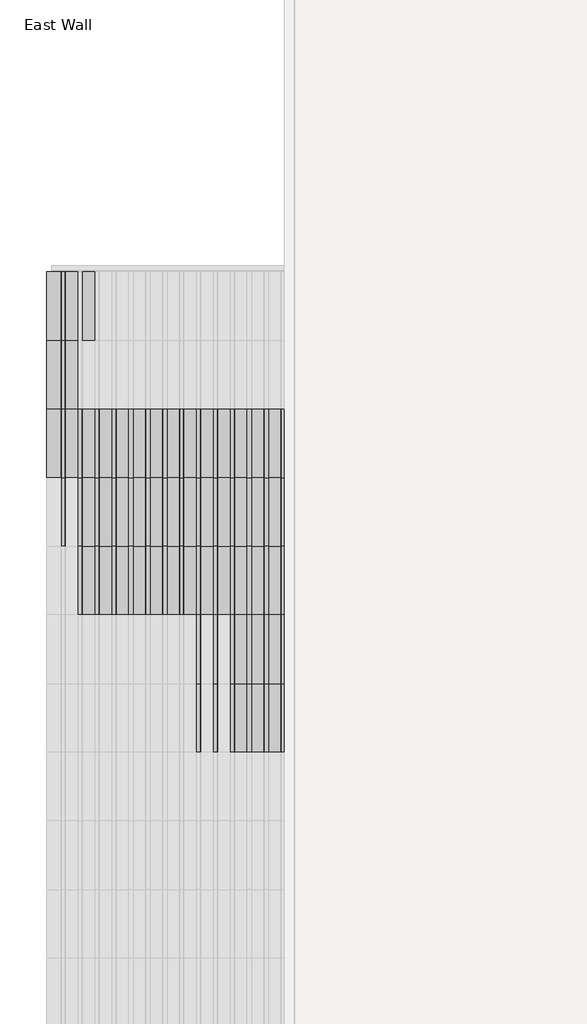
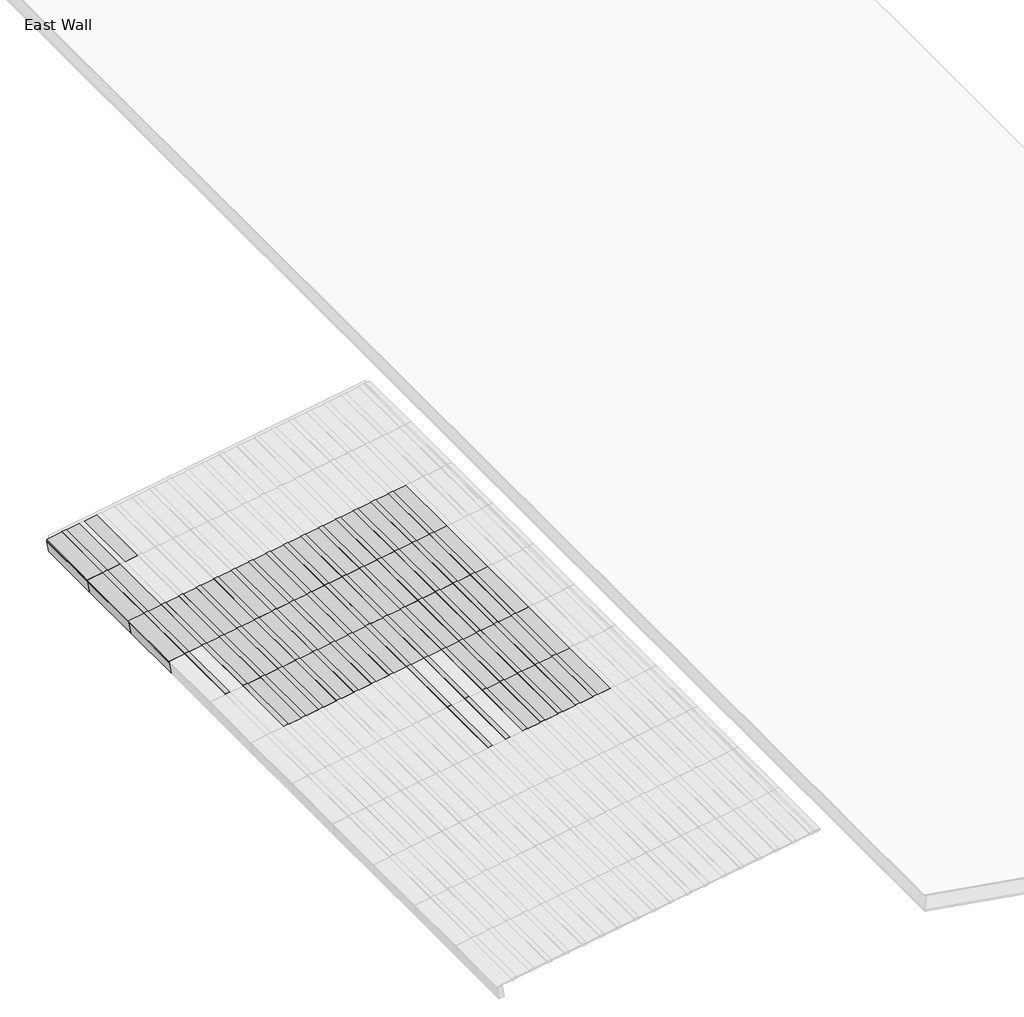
# One storey, part 4 of 5: 63 members, 59 plates.
"""IFC4 building model written with IfcOpenShell, lengths in millimetres."""

from ifc_helpers import new_model, si_unit, origin, place, context, project, spatial, transform, mapped, element, save
from components import rectangular_mullion_fascia_9a07afea, rectangular_mullion_fascia_589b878f, rectangular_mullion_wood_slats_095afc73, rectangular_mullion_wood_slats_83d5eb21, system_panel_empty_9ec88690, system_panel_empty_25c6223c

model = new_model("IFC4")

# Units and contexts
model_context = context("Model", 3, world=origin())
ifc_project = project(units=[si_unit("LENGTHUNIT", "METRE", prefix="MILLI")], contexts=[model_context])

# Site, building, storey
site = spatial("IfcSite", under=ifc_project)
building = spatial("IfcBuilding", under=site)
storey = spatial("IfcBuildingStorey", under=building, Name="East Wall", Elevation=3657.6)

# Members
placement = place(None, origin())
rectangular_mullion_fascia_shape = rectangular_mullion_fascia_9a07afea(model_context)
element("IfcMember", 1, ObjectType="Rectangular Mullion : Fascia", at=placement, inside=storey, context=model_context, shape_type="MappedRepresentation", body=[
    mapped(rectangular_mullion_fascia_shape, transform((9705.6989802, 10773.4499281, 3044.5915776), x_axis=(-0.9863939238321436, 0.0, -0.16439898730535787), y_axis=(0.16439898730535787, 0.0, -0.9863939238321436), z_axis=(0.0, -1.0, 0.0))),
])
element("IfcMember", 2, ObjectType="Rectangular Mullion : Fascia", at=placement, inside=storey, context=model_context, shape_type="MappedRepresentation", body=[
    mapped(rectangular_mullion_fascia_shape, transform((9705.6989802, 10163.8499281, 3044.5915776), x_axis=(-0.9863939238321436, 0.0, -0.16439898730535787), y_axis=(0.16439898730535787, 0.0, -0.9863939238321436), z_axis=(0.0, -1.0, 0.0))),
])
rectangular_mullion_fascia_2_shape = rectangular_mullion_fascia_589b878f(model_context)
element("IfcMember", 3, ObjectType="Rectangular Mullion : Fascia", at=placement, inside=storey, context=model_context, shape_type="MappedRepresentation", body=[
    mapped(rectangular_mullion_fascia_2_shape, transform((9705.6989802, 11383.0499281, 3044.5915776), x_axis=(-0.9863939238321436, 0.0, -0.16439898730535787), y_axis=(0.16439898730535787, 0.0, -0.9863939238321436), z_axis=(0.0, -1.0, 0.0))),
])
rectangular_mullion_wood_slats_shape = rectangular_mullion_wood_slats_095afc73(model_context)
element("IfcMember", 4, ObjectType="Rectangular Mullion : Wood Slats", at=placement, inside=storey, context=model_context, shape_type="MappedRepresentation", body=[
    mapped(rectangular_mullion_wood_slats_shape, transform((9856.0254142, 11383.0499281, 3069.6459833), x_axis=(0.9863939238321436, 0.0, 0.16439898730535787), y_axis=(0.16439898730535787, 0.0, -0.9863939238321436), z_axis=(0.0, 1.0, 0.0))),
])
element("IfcMember", 5, ObjectType="Rectangular Mullion : Wood Slats", at=placement, inside=storey, context=model_context, shape_type="MappedRepresentation", body=[
    mapped(rectangular_mullion_wood_slats_shape, transform((9856.0254142, 10773.4499281, 3069.6459833), x_axis=(0.9863939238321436, 0.0, 0.16439898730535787), y_axis=(0.16439898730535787, 0.0, -0.9863939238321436), z_axis=(0.0, 1.0, 0.0))),
])
element("IfcMember", 6, ObjectType="Rectangular Mullion : Wood Slats", at=placement, inside=storey, context=model_context, shape_type="MappedRepresentation", body=[
    mapped(rectangular_mullion_wood_slats_shape, transform((9856.0254142, 10163.8499281, 3069.6459833), x_axis=(0.9863939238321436, 0.0, 0.16439898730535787), y_axis=(0.16439898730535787, 0.0, -0.9863939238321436), z_axis=(0.0, 1.0, 0.0))),
])
element("IfcMember", 7, ObjectType="Rectangular Mullion : Wood Slats", at=placement, inside=storey, context=model_context, shape_type="MappedRepresentation", body=[
    mapped(rectangular_mullion_wood_slats_shape, transform((10006.3518482, 10773.4499281, 3094.700389), x_axis=(0.9863939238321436, 0.0, 0.16439898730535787), y_axis=(0.16439898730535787, 0.0, -0.9863939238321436), z_axis=(0.0, 1.0, 0.0))),
])
element("IfcMember", 8, ObjectType="Rectangular Mullion : Wood Slats", at=placement, inside=storey, context=model_context, shape_type="MappedRepresentation", body=[
    mapped(rectangular_mullion_wood_slats_shape, transform((10006.3518482, 10163.8499281, 3094.700389), x_axis=(0.9863939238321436, 0.0, 0.16439898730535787), y_axis=(0.16439898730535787, 0.0, -0.9863939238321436), z_axis=(0.0, 1.0, 0.0))),
])
element("IfcMember", 9, ObjectType="Rectangular Mullion : Wood Slats", at=placement, inside=storey, context=model_context, shape_type="MappedRepresentation", body=[
    mapped(rectangular_mullion_wood_slats_shape, transform((10006.3518482, 9554.2499281, 3094.700389), x_axis=(0.9863939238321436, 0.0, 0.16439898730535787), y_axis=(0.16439898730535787, 0.0, -0.9863939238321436), z_axis=(0.0, 1.0, 0.0))),
])
element("IfcMember", 10, ObjectType="Rectangular Mullion : Wood Slats", at=placement, inside=storey, context=model_context, shape_type="MappedRepresentation", body=[
    mapped(rectangular_mullion_wood_slats_shape, transform((10156.6782822, 10773.4499281, 3119.7547946), x_axis=(0.9863939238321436, 0.0, 0.16439898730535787), y_axis=(0.16439898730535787, 0.0, -0.9863939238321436), z_axis=(0.0, 1.0, 0.0))),
])
element("IfcMember", 11, ObjectType="Rectangular Mullion : Wood Slats", at=placement, inside=storey, context=model_context, shape_type="MappedRepresentation", body=[
    mapped(rectangular_mullion_wood_slats_shape, transform((10156.6782822, 10163.8499281, 3119.7547946), x_axis=(0.9863939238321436, 0.0, 0.16439898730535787), y_axis=(0.16439898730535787, 0.0, -0.9863939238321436), z_axis=(0.0, 1.0, 0.0))),
])
element("IfcMember", 12, ObjectType="Rectangular Mullion : Wood Slats", at=placement, inside=storey, context=model_context, shape_type="MappedRepresentation", body=[
    mapped(rectangular_mullion_wood_slats_shape, transform((10156.6782822, 9554.2499281, 3119.7547946), x_axis=(0.9863939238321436, 0.0, 0.16439898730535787), y_axis=(0.16439898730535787, 0.0, -0.9863939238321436), z_axis=(0.0, 1.0, 0.0))),
])
element("IfcMember", 13, ObjectType="Rectangular Mullion : Wood Slats", at=placement, inside=storey, context=model_context, shape_type="MappedRepresentation", body=[
    mapped(rectangular_mullion_wood_slats_shape, transform((10307.0047162, 10773.4499281, 3144.8092003), x_axis=(0.9863939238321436, 0.0, 0.16439898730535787), y_axis=(0.16439898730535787, 0.0, -0.9863939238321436), z_axis=(0.0, 1.0, 0.0))),
])
element("IfcMember", 14, ObjectType="Rectangular Mullion : Wood Slats", at=placement, inside=storey, context=model_context, shape_type="MappedRepresentation", body=[
    mapped(rectangular_mullion_wood_slats_shape, transform((10307.0047162, 10163.8499281, 3144.8092003), x_axis=(0.9863939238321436, 0.0, 0.16439898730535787), y_axis=(0.16439898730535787, 0.0, -0.9863939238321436), z_axis=(0.0, 1.0, 0.0))),
])
element("IfcMember", 15, ObjectType="Rectangular Mullion : Wood Slats", at=placement, inside=storey, context=model_context, shape_type="MappedRepresentation", body=[
    mapped(rectangular_mullion_wood_slats_shape, transform((10307.0047162, 9554.2499281, 3144.8092003), x_axis=(0.9863939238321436, 0.0, 0.16439898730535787), y_axis=(0.16439898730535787, 0.0, -0.9863939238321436), z_axis=(0.0, 1.0, 0.0))),
])
element("IfcMember", 16, ObjectType="Rectangular Mullion : Wood Slats", at=placement, inside=storey, context=model_context, shape_type="MappedRepresentation", body=[
    mapped(rectangular_mullion_wood_slats_shape, transform((10457.3311502, 10773.4499281, 3169.863606), x_axis=(0.9863939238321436, 0.0, 0.16439898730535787), y_axis=(0.16439898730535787, 0.0, -0.9863939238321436), z_axis=(0.0, 1.0, 0.0))),
])
element("IfcMember", 17, ObjectType="Rectangular Mullion : Wood Slats", at=placement, inside=storey, context=model_context, shape_type="MappedRepresentation", body=[
    mapped(rectangular_mullion_wood_slats_shape, transform((10457.3311502, 10163.8499281, 3169.863606), x_axis=(0.9863939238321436, 0.0, 0.16439898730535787), y_axis=(0.16439898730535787, 0.0, -0.9863939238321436), z_axis=(0.0, 1.0, 0.0))),
])
element("IfcMember", 18, ObjectType="Rectangular Mullion : Wood Slats", at=placement, inside=storey, context=model_context, shape_type="MappedRepresentation", body=[
    mapped(rectangular_mullion_wood_slats_shape, transform((10457.3311502, 9554.2499281, 3169.863606), x_axis=(0.9863939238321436, 0.0, 0.16439898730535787), y_axis=(0.16439898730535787, 0.0, -0.9863939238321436), z_axis=(0.0, 1.0, 0.0))),
])
element("IfcMember", 19, ObjectType="Rectangular Mullion : Wood Slats", at=placement, inside=storey, context=model_context, shape_type="MappedRepresentation", body=[
    mapped(rectangular_mullion_wood_slats_shape, transform((10607.6575842, 10773.4499281, 3194.9180116), x_axis=(0.9863939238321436, 0.0, 0.16439898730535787), y_axis=(0.16439898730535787, 0.0, -0.9863939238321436), z_axis=(0.0, 1.0, 0.0))),
])
element("IfcMember", 20, ObjectType="Rectangular Mullion : Wood Slats", at=placement, inside=storey, context=model_context, shape_type="MappedRepresentation", body=[
    mapped(rectangular_mullion_wood_slats_shape, transform((10607.6575842, 10163.8499281, 3194.9180116), x_axis=(0.9863939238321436, 0.0, 0.16439898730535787), y_axis=(0.16439898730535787, 0.0, -0.9863939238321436), z_axis=(0.0, 1.0, 0.0))),
])
element("IfcMember", 21, ObjectType="Rectangular Mullion : Wood Slats", at=placement, inside=storey, context=model_context, shape_type="MappedRepresentation", body=[
    mapped(rectangular_mullion_wood_slats_shape, transform((10607.6575842, 9554.2499281, 3194.9180116), x_axis=(0.9863939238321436, 0.0, 0.16439898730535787), y_axis=(0.16439898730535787, 0.0, -0.9863939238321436), z_axis=(0.0, 1.0, 0.0))),
])
element("IfcMember", 22, ObjectType="Rectangular Mullion : Wood Slats", at=placement, inside=storey, context=model_context, shape_type="MappedRepresentation", body=[
    mapped(rectangular_mullion_wood_slats_shape, transform((10757.9840182, 10773.4499281, 3219.9724173), x_axis=(0.9863939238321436, 0.0, 0.16439898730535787), y_axis=(0.16439898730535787, 0.0, -0.9863939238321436), z_axis=(0.0, 1.0, 0.0))),
])
element("IfcMember", 23, ObjectType="Rectangular Mullion : Wood Slats", at=placement, inside=storey, context=model_context, shape_type="MappedRepresentation", body=[
    mapped(rectangular_mullion_wood_slats_shape, transform((10757.9840182, 10163.8499281, 3219.9724173), x_axis=(0.9863939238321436, 0.0, 0.16439898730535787), y_axis=(0.16439898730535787, 0.0, -0.9863939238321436), z_axis=(0.0, 1.0, 0.0))),
])
element("IfcMember", 24, ObjectType="Rectangular Mullion : Wood Slats", at=placement, inside=storey, context=model_context, shape_type="MappedRepresentation", body=[
    mapped(rectangular_mullion_wood_slats_shape, transform((10757.9840182, 9554.2499281, 3219.9724173), x_axis=(0.9863939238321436, 0.0, 0.16439898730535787), y_axis=(0.16439898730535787, 0.0, -0.9863939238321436), z_axis=(0.0, 1.0, 0.0))),
])
element("IfcMember", 25, ObjectType="Rectangular Mullion : Wood Slats", at=placement, inside=storey, context=model_context, shape_type="MappedRepresentation", body=[
    mapped(rectangular_mullion_wood_slats_shape, transform((10908.3104522, 10773.4499281, 3245.026823), x_axis=(0.9863939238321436, 0.0, 0.16439898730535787), y_axis=(0.16439898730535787, 0.0, -0.9863939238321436), z_axis=(0.0, 1.0, 0.0))),
])
element("IfcMember", 26, ObjectType="Rectangular Mullion : Wood Slats", at=placement, inside=storey, context=model_context, shape_type="MappedRepresentation", body=[
    mapped(rectangular_mullion_wood_slats_shape, transform((10908.3104522, 10163.8499281, 3245.026823), x_axis=(0.9863939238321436, 0.0, 0.16439898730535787), y_axis=(0.16439898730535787, 0.0, -0.9863939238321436), z_axis=(0.0, 1.0, 0.0))),
])
element("IfcMember", 27, ObjectType="Rectangular Mullion : Wood Slats", at=placement, inside=storey, context=model_context, shape_type="MappedRepresentation", body=[
    mapped(rectangular_mullion_wood_slats_shape, transform((10908.3104522, 9554.2499281, 3245.026823), x_axis=(0.9863939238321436, 0.0, 0.16439898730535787), y_axis=(0.16439898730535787, 0.0, -0.9863939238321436), z_axis=(0.0, 1.0, 0.0))),
])
element("IfcMember", 28, ObjectType="Rectangular Mullion : Wood Slats", at=placement, inside=storey, context=model_context, shape_type="MappedRepresentation", body=[
    mapped(rectangular_mullion_wood_slats_shape, transform((11058.6368862, 10773.4499281, 3270.0812286), x_axis=(0.9863939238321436, 0.0, 0.16439898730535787), y_axis=(0.16439898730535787, 0.0, -0.9863939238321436), z_axis=(0.0, 1.0, 0.0))),
])
element("IfcMember", 29, ObjectType="Rectangular Mullion : Wood Slats", at=placement, inside=storey, context=model_context, shape_type="MappedRepresentation", body=[
    mapped(rectangular_mullion_wood_slats_shape, transform((11058.6368862, 10163.8499281, 3270.0812286), x_axis=(0.9863939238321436, 0.0, 0.16439898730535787), y_axis=(0.16439898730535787, 0.0, -0.9863939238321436), z_axis=(0.0, 1.0, 0.0))),
])
element("IfcMember", 30, ObjectType="Rectangular Mullion : Wood Slats", at=placement, inside=storey, context=model_context, shape_type="MappedRepresentation", body=[
    mapped(rectangular_mullion_wood_slats_shape, transform((11058.6368862, 9554.2499281, 3270.0812286), x_axis=(0.9863939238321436, 0.0, 0.16439898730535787), y_axis=(0.16439898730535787, 0.0, -0.9863939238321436), z_axis=(0.0, 1.0, 0.0))),
])
element("IfcMember", 31, ObjectType="Rectangular Mullion : Wood Slats", at=placement, inside=storey, context=model_context, shape_type="MappedRepresentation", body=[
    mapped(rectangular_mullion_wood_slats_shape, transform((11058.6368862, 8944.6499281, 3270.0812286), x_axis=(0.9863939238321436, 0.0, 0.16439898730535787), y_axis=(0.16439898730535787, 0.0, -0.9863939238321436), z_axis=(0.0, 1.0, 0.0))),
])
element("IfcMember", 32, ObjectType="Rectangular Mullion : Wood Slats", at=placement, inside=storey, context=model_context, shape_type="MappedRepresentation", body=[
    mapped(rectangular_mullion_wood_slats_shape, transform((11058.6368862, 8335.0499281, 3270.0812286), x_axis=(0.9863939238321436, 0.0, 0.16439898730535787), y_axis=(0.16439898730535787, 0.0, -0.9863939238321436), z_axis=(0.0, 1.0, 0.0))),
])
element("IfcMember", 33, ObjectType="Rectangular Mullion : Wood Slats", at=placement, inside=storey, context=model_context, shape_type="MappedRepresentation", body=[
    mapped(rectangular_mullion_wood_slats_shape, transform((11208.9633201, 10773.4499281, 3295.1356343), x_axis=(0.9863939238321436, 0.0, 0.16439898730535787), y_axis=(0.16439898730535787, 0.0, -0.9863939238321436), z_axis=(0.0, 1.0, 0.0))),
])
element("IfcMember", 34, ObjectType="Rectangular Mullion : Wood Slats", at=placement, inside=storey, context=model_context, shape_type="MappedRepresentation", body=[
    mapped(rectangular_mullion_wood_slats_shape, transform((11208.9633201, 10163.8499281, 3295.1356343), x_axis=(0.9863939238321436, 0.0, 0.16439898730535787), y_axis=(0.16439898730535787, 0.0, -0.9863939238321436), z_axis=(0.0, 1.0, 0.0))),
])
element("IfcMember", 35, ObjectType="Rectangular Mullion : Wood Slats", at=placement, inside=storey, context=model_context, shape_type="MappedRepresentation", body=[
    mapped(rectangular_mullion_wood_slats_shape, transform((11208.9633201, 9554.2499281, 3295.1356343), x_axis=(0.9863939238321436, 0.0, 0.16439898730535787), y_axis=(0.16439898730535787, 0.0, -0.9863939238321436), z_axis=(0.0, 1.0, 0.0))),
])
element("IfcMember", 36, ObjectType="Rectangular Mullion : Wood Slats", at=placement, inside=storey, context=model_context, shape_type="MappedRepresentation", body=[
    mapped(rectangular_mullion_wood_slats_shape, transform((11208.9633201, 8944.6499281, 3295.1356343), x_axis=(0.9863939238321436, 0.0, 0.16439898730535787), y_axis=(0.16439898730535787, 0.0, -0.9863939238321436), z_axis=(0.0, 1.0, 0.0))),
])
element("IfcMember", 37, ObjectType="Rectangular Mullion : Wood Slats", at=placement, inside=storey, context=model_context, shape_type="MappedRepresentation", body=[
    mapped(rectangular_mullion_wood_slats_shape, transform((11208.9633201, 8335.0499281, 3295.1356343), x_axis=(0.9863939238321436, 0.0, 0.16439898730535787), y_axis=(0.16439898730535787, 0.0, -0.9863939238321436), z_axis=(0.0, 1.0, 0.0))),
])
element("IfcMember", 38, ObjectType="Rectangular Mullion : Wood Slats", at=placement, inside=storey, context=model_context, shape_type="MappedRepresentation", body=[
    mapped(rectangular_mullion_wood_slats_shape, transform((11359.2897541, 10773.4499281, 3320.19004), x_axis=(0.9863939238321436, 0.0, 0.16439898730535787), y_axis=(0.16439898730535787, 0.0, -0.9863939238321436), z_axis=(0.0, 1.0, 0.0))),
])
element("IfcMember", 39, ObjectType="Rectangular Mullion : Wood Slats", at=placement, inside=storey, context=model_context, shape_type="MappedRepresentation", body=[
    mapped(rectangular_mullion_wood_slats_shape, transform((11359.2897541, 10163.8499281, 3320.19004), x_axis=(0.9863939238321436, 0.0, 0.16439898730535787), y_axis=(0.16439898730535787, 0.0, -0.9863939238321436), z_axis=(0.0, 1.0, 0.0))),
])
element("IfcMember", 40, ObjectType="Rectangular Mullion : Wood Slats", at=placement, inside=storey, context=model_context, shape_type="MappedRepresentation", body=[
    mapped(rectangular_mullion_wood_slats_shape, transform((11359.2897541, 9554.2499281, 3320.19004), x_axis=(0.9863939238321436, 0.0, 0.16439898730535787), y_axis=(0.16439898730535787, 0.0, -0.9863939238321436), z_axis=(0.0, 1.0, 0.0))),
])
element("IfcMember", 41, ObjectType="Rectangular Mullion : Wood Slats", at=placement, inside=storey, context=model_context, shape_type="MappedRepresentation", body=[
    mapped(rectangular_mullion_wood_slats_shape, transform((11359.2897541, 8944.6499281, 3320.19004), x_axis=(0.9863939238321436, 0.0, 0.16439898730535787), y_axis=(0.16439898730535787, 0.0, -0.9863939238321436), z_axis=(0.0, 1.0, 0.0))),
])
element("IfcMember", 42, ObjectType="Rectangular Mullion : Wood Slats", at=placement, inside=storey, context=model_context, shape_type="MappedRepresentation", body=[
    mapped(rectangular_mullion_wood_slats_shape, transform((11359.2897541, 8335.0499281, 3320.19004), x_axis=(0.9863939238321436, 0.0, 0.16439898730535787), y_axis=(0.16439898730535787, 0.0, -0.9863939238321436), z_axis=(0.0, 1.0, 0.0))),
])
element("IfcMember", 43, ObjectType="Rectangular Mullion : Wood Slats", at=placement, inside=storey, context=model_context, shape_type="MappedRepresentation", body=[
    mapped(rectangular_mullion_wood_slats_shape, transform((11509.6161881, 10773.4499281, 3345.2444456), x_axis=(0.9863939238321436, 0.0, 0.16439898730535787), y_axis=(0.16439898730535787, 0.0, -0.9863939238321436), z_axis=(0.0, 1.0, 0.0))),
])
element("IfcMember", 44, ObjectType="Rectangular Mullion : Wood Slats", at=placement, inside=storey, context=model_context, shape_type="MappedRepresentation", body=[
    mapped(rectangular_mullion_wood_slats_shape, transform((11509.6161881, 10163.8499281, 3345.2444456), x_axis=(0.9863939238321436, 0.0, 0.16439898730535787), y_axis=(0.16439898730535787, 0.0, -0.9863939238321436), z_axis=(0.0, 1.0, 0.0))),
])
element("IfcMember", 45, ObjectType="Rectangular Mullion : Wood Slats", at=placement, inside=storey, context=model_context, shape_type="MappedRepresentation", body=[
    mapped(rectangular_mullion_wood_slats_shape, transform((11509.6161881, 9554.2499281, 3345.2444456), x_axis=(0.9863939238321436, 0.0, 0.16439898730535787), y_axis=(0.16439898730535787, 0.0, -0.9863939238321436), z_axis=(0.0, 1.0, 0.0))),
])
element("IfcMember", 46, ObjectType="Rectangular Mullion : Wood Slats", at=placement, inside=storey, context=model_context, shape_type="MappedRepresentation", body=[
    mapped(rectangular_mullion_wood_slats_shape, transform((11509.6161881, 8944.6499281, 3345.2444456), x_axis=(0.9863939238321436, 0.0, 0.16439898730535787), y_axis=(0.16439898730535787, 0.0, -0.9863939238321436), z_axis=(0.0, 1.0, 0.0))),
])
element("IfcMember", 47, ObjectType="Rectangular Mullion : Wood Slats", at=placement, inside=storey, context=model_context, shape_type="MappedRepresentation", body=[
    mapped(rectangular_mullion_wood_slats_shape, transform((11509.6161881, 8335.0499281, 3345.2444456), x_axis=(0.9863939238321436, 0.0, 0.16439898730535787), y_axis=(0.16439898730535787, 0.0, -0.9863939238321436), z_axis=(0.0, 1.0, 0.0))),
])
element("IfcMember", 48, ObjectType="Rectangular Mullion : Wood Slats", at=placement, inside=storey, context=model_context, shape_type="MappedRepresentation", body=[
    mapped(rectangular_mullion_wood_slats_shape, transform((11659.9426221, 10773.4499281, 3370.2988513), x_axis=(0.9863939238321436, 0.0, 0.16439898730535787), y_axis=(0.16439898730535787, 0.0, -0.9863939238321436), z_axis=(0.0, 1.0, 0.0))),
])
element("IfcMember", 49, ObjectType="Rectangular Mullion : Wood Slats", at=placement, inside=storey, context=model_context, shape_type="MappedRepresentation", body=[
    mapped(rectangular_mullion_wood_slats_shape, transform((11659.9426221, 10163.8499281, 3370.2988513), x_axis=(0.9863939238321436, 0.0, 0.16439898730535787), y_axis=(0.16439898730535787, 0.0, -0.9863939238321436), z_axis=(0.0, 1.0, 0.0))),
])
element("IfcMember", 50, ObjectType="Rectangular Mullion : Wood Slats", at=placement, inside=storey, context=model_context, shape_type="MappedRepresentation", body=[
    mapped(rectangular_mullion_wood_slats_shape, transform((11659.9426221, 9554.2499281, 3370.2988513), x_axis=(0.9863939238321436, 0.0, 0.16439898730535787), y_axis=(0.16439898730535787, 0.0, -0.9863939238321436), z_axis=(0.0, 1.0, 0.0))),
])
element("IfcMember", 51, ObjectType="Rectangular Mullion : Wood Slats", at=placement, inside=storey, context=model_context, shape_type="MappedRepresentation", body=[
    mapped(rectangular_mullion_wood_slats_shape, transform((11659.9426221, 8944.6499281, 3370.2988513), x_axis=(0.9863939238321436, 0.0, 0.16439898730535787), y_axis=(0.16439898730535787, 0.0, -0.9863939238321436), z_axis=(0.0, 1.0, 0.0))),
])
element("IfcMember", 52, ObjectType="Rectangular Mullion : Wood Slats", at=placement, inside=storey, context=model_context, shape_type="MappedRepresentation", body=[
    mapped(rectangular_mullion_wood_slats_shape, transform((11659.9426221, 8335.0499281, 3370.2988513), x_axis=(0.9863939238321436, 0.0, 0.16439898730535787), y_axis=(0.16439898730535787, 0.0, -0.9863939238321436), z_axis=(0.0, 1.0, 0.0))),
])
element("IfcMember", 53, ObjectType="Rectangular Mullion : Wood Slats", at=placement, inside=storey, context=model_context, shape_type="MappedRepresentation", body=[
    mapped(rectangular_mullion_wood_slats_shape, transform((11810.2690561, 10773.4499281, 3395.353257), x_axis=(0.9863939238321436, 0.0, 0.16439898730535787), y_axis=(0.16439898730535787, 0.0, -0.9863939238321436), z_axis=(0.0, 1.0, 0.0))),
])
element("IfcMember", 54, ObjectType="Rectangular Mullion : Wood Slats", at=placement, inside=storey, context=model_context, shape_type="MappedRepresentation", body=[
    mapped(rectangular_mullion_wood_slats_shape, transform((11810.2690561, 10163.8499281, 3395.353257), x_axis=(0.9863939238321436, 0.0, 0.16439898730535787), y_axis=(0.16439898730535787, 0.0, -0.9863939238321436), z_axis=(0.0, 1.0, 0.0))),
])
element("IfcMember", 55, ObjectType="Rectangular Mullion : Wood Slats", at=placement, inside=storey, context=model_context, shape_type="MappedRepresentation", body=[
    mapped(rectangular_mullion_wood_slats_shape, transform((11810.2690561, 9554.2499281, 3395.353257), x_axis=(0.9863939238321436, 0.0, 0.16439898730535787), y_axis=(0.16439898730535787, 0.0, -0.9863939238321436), z_axis=(0.0, 1.0, 0.0))),
])
element("IfcMember", 56, ObjectType="Rectangular Mullion : Wood Slats", at=placement, inside=storey, context=model_context, shape_type="MappedRepresentation", body=[
    mapped(rectangular_mullion_wood_slats_shape, transform((11810.2690561, 8944.6499281, 3395.353257), x_axis=(0.9863939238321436, 0.0, 0.16439898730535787), y_axis=(0.16439898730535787, 0.0, -0.9863939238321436), z_axis=(0.0, 1.0, 0.0))),
])
element("IfcMember", 57, ObjectType="Rectangular Mullion : Wood Slats", at=placement, inside=storey, context=model_context, shape_type="MappedRepresentation", body=[
    mapped(rectangular_mullion_wood_slats_shape, transform((11810.2690561, 8335.0499281, 3395.353257), x_axis=(0.9863939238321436, 0.0, 0.16439898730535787), y_axis=(0.16439898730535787, 0.0, -0.9863939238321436), z_axis=(0.0, 1.0, 0.0))),
])
element("IfcMember", 58, ObjectType="Rectangular Mullion : Wood Slats", at=placement, inside=storey, context=model_context, shape_type="MappedRepresentation", body=[
    mapped(rectangular_mullion_wood_slats_shape, transform((11960.5954901, 10773.4499281, 3420.4076626), x_axis=(0.9863939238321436, 0.0, 0.16439898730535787), y_axis=(0.16439898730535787, 0.0, -0.9863939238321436), z_axis=(0.0, 1.0, 0.0))),
])
element("IfcMember", 59, ObjectType="Rectangular Mullion : Wood Slats", at=placement, inside=storey, context=model_context, shape_type="MappedRepresentation", body=[
    mapped(rectangular_mullion_wood_slats_shape, transform((11960.5954901, 10163.8499281, 3420.4076626), x_axis=(0.9863939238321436, 0.0, 0.16439898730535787), y_axis=(0.16439898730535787, 0.0, -0.9863939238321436), z_axis=(0.0, 1.0, 0.0))),
])
element("IfcMember", 60, ObjectType="Rectangular Mullion : Wood Slats", at=placement, inside=storey, context=model_context, shape_type="MappedRepresentation", body=[
    mapped(rectangular_mullion_wood_slats_shape, transform((11960.5954901, 9554.2499281, 3420.4076626), x_axis=(0.9863939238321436, 0.0, 0.16439898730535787), y_axis=(0.16439898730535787, 0.0, -0.9863939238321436), z_axis=(0.0, 1.0, 0.0))),
])
element("IfcMember", 61, ObjectType="Rectangular Mullion : Wood Slats", at=placement, inside=storey, context=model_context, shape_type="MappedRepresentation", body=[
    mapped(rectangular_mullion_wood_slats_shape, transform((11960.5954901, 8944.6499281, 3420.4076626), x_axis=(0.9863939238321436, 0.0, 0.16439898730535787), y_axis=(0.16439898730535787, 0.0, -0.9863939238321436), z_axis=(0.0, 1.0, 0.0))),
])
element("IfcMember", 62, ObjectType="Rectangular Mullion : Wood Slats", at=placement, inside=storey, context=model_context, shape_type="MappedRepresentation", body=[
    mapped(rectangular_mullion_wood_slats_shape, transform((11960.5954901, 8335.0499281, 3420.4076626), x_axis=(0.9863939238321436, 0.0, 0.16439898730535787), y_axis=(0.16439898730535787, 0.0, -0.9863939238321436), z_axis=(0.0, 1.0, 0.0))),
])
rectangular_mullion_wood_slats_2_shape = rectangular_mullion_wood_slats_83d5eb21(model_context)
element("IfcMember", 63, ObjectType="Rectangular Mullion : Wood Slats", at=placement, inside=storey, context=model_context, shape_type="MappedRepresentation", body=[
    mapped(rectangular_mullion_wood_slats_2_shape, transform((9856.0254142, 11992.6499284, 3069.6459833), x_axis=(0.9863939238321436, 0.0, 0.16439898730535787), y_axis=(0.16439898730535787, 0.0, -0.9863939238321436), z_axis=(0.0, 1.0, 0.0))),
])

# Plates
system_panel_empty_shape = system_panel_empty_9ec88690(model_context)
element("IfcPlate", 64, ObjectType="System Panel : Empty", at=placement, inside=storey, context=model_context, shape_type="MappedRepresentation", body=[
    mapped(system_panel_empty_shape, transform((9874.8162185, 11687.8499283, 3072.777784), x_axis=(0.0, -1.0, 0.0), y_axis=(0.16439898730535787, 0.0, -0.9863939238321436), z_axis=(0.9863939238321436, 0.0, 0.16439898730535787))),
])
element("IfcPlate", 65, ObjectType="System Panel : Empty", at=placement, inside=storey, context=model_context, shape_type="MappedRepresentation", body=[
    mapped(system_panel_empty_shape, transform((9874.8162185, 11078.2499281, 3072.777784), x_axis=(0.0, -1.0, 0.0), y_axis=(0.16439898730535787, 0.0, -0.9863939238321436), z_axis=(0.9863939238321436, 0.0, 0.16439898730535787))),
])
element("IfcPlate", 66, ObjectType="System Panel : Empty", at=placement, inside=storey, context=model_context, shape_type="MappedRepresentation", body=[
    mapped(system_panel_empty_shape, transform((9874.8162185, 10468.6499281, 3072.777784), x_axis=(0.0, -1.0, 0.0), y_axis=(0.16439898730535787, 0.0, -0.9863939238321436), z_axis=(0.9863939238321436, 0.0, 0.16439898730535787))),
])
element("IfcPlate", 67, ObjectType="System Panel : Empty", at=placement, inside=storey, context=model_context, shape_type="MappedRepresentation", body=[
    mapped(system_panel_empty_shape, transform((10025.1426525, 11687.8499283, 3097.8321897), x_axis=(0.0, -1.0, 0.0), y_axis=(0.16439898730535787, 0.0, -0.9863939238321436), z_axis=(0.9863939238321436, 0.0, 0.16439898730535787))),
])
element("IfcPlate", 68, ObjectType="System Panel : Empty", at=placement, inside=storey, context=model_context, shape_type="MappedRepresentation", body=[
    mapped(system_panel_empty_shape, transform((10025.1426525, 10468.6499281, 3097.8321897), x_axis=(0.0, -1.0, 0.0), y_axis=(0.16439898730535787, 0.0, -0.9863939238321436), z_axis=(0.9863939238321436, 0.0, 0.16439898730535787))),
])
element("IfcPlate", 69, ObjectType="System Panel : Empty", at=placement, inside=storey, context=model_context, shape_type="MappedRepresentation", body=[
    mapped(system_panel_empty_shape, transform((10025.1426525, 9859.0499281, 3097.8321897), x_axis=(0.0, -1.0, 0.0), y_axis=(0.16439898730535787, 0.0, -0.9863939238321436), z_axis=(0.9863939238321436, 0.0, 0.16439898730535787))),
])
element("IfcPlate", 70, ObjectType="System Panel : Empty", at=placement, inside=storey, context=model_context, shape_type="MappedRepresentation", body=[
    mapped(system_panel_empty_shape, transform((10025.1426525, 9249.4499281, 3097.8321897), x_axis=(0.0, -1.0, 0.0), y_axis=(0.16439898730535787, 0.0, -0.9863939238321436), z_axis=(0.9863939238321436, 0.0, 0.16439898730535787))),
])
element("IfcPlate", 71, ObjectType="System Panel : Empty", at=placement, inside=storey, context=model_context, shape_type="MappedRepresentation", body=[
    mapped(system_panel_empty_shape, transform((10175.4690865, 10468.6499281, 3122.8865954), x_axis=(0.0, -1.0, 0.0), y_axis=(0.16439898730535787, 0.0, -0.9863939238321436), z_axis=(0.9863939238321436, 0.0, 0.16439898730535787))),
])
element("IfcPlate", 72, ObjectType="System Panel : Empty", at=placement, inside=storey, context=model_context, shape_type="MappedRepresentation", body=[
    mapped(system_panel_empty_shape, transform((10175.4690865, 9859.0499281, 3122.8865954), x_axis=(0.0, -1.0, 0.0), y_axis=(0.16439898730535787, 0.0, -0.9863939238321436), z_axis=(0.9863939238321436, 0.0, 0.16439898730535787))),
])
element("IfcPlate", 73, ObjectType="System Panel : Empty", at=placement, inside=storey, context=model_context, shape_type="MappedRepresentation", body=[
    mapped(system_panel_empty_shape, transform((10175.4690865, 9249.4499281, 3122.8865954), x_axis=(0.0, -1.0, 0.0), y_axis=(0.16439898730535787, 0.0, -0.9863939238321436), z_axis=(0.9863939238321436, 0.0, 0.16439898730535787))),
])
element("IfcPlate", 74, ObjectType="System Panel : Empty", at=placement, inside=storey, context=model_context, shape_type="MappedRepresentation", body=[
    mapped(system_panel_empty_shape, transform((10325.7955204, 10468.6499281, 3147.941001), x_axis=(0.0, -1.0, 0.0), y_axis=(0.16439898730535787, 0.0, -0.9863939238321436), z_axis=(0.9863939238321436, 0.0, 0.16439898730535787))),
])
element("IfcPlate", 75, ObjectType="System Panel : Empty", at=placement, inside=storey, context=model_context, shape_type="MappedRepresentation", body=[
    mapped(system_panel_empty_shape, transform((10325.7955204, 9859.0499281, 3147.941001), x_axis=(0.0, -1.0, 0.0), y_axis=(0.16439898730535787, 0.0, -0.9863939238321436), z_axis=(0.9863939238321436, 0.0, 0.16439898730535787))),
])
element("IfcPlate", 76, ObjectType="System Panel : Empty", at=placement, inside=storey, context=model_context, shape_type="MappedRepresentation", body=[
    mapped(system_panel_empty_shape, transform((10325.7955204, 9249.4499281, 3147.941001), x_axis=(0.0, -1.0, 0.0), y_axis=(0.16439898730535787, 0.0, -0.9863939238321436), z_axis=(0.9863939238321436, 0.0, 0.16439898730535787))),
])
element("IfcPlate", 77, ObjectType="System Panel : Empty", at=placement, inside=storey, context=model_context, shape_type="MappedRepresentation", body=[
    mapped(system_panel_empty_shape, transform((10476.1219544, 10468.6499281, 3172.9954067), x_axis=(0.0, -1.0, 0.0), y_axis=(0.16439898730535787, 0.0, -0.9863939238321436), z_axis=(0.9863939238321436, 0.0, 0.16439898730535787))),
])
element("IfcPlate", 78, ObjectType="System Panel : Empty", at=placement, inside=storey, context=model_context, shape_type="MappedRepresentation", body=[
    mapped(system_panel_empty_shape, transform((10476.1219544, 9859.0499281, 3172.9954067), x_axis=(0.0, -1.0, 0.0), y_axis=(0.16439898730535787, 0.0, -0.9863939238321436), z_axis=(0.9863939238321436, 0.0, 0.16439898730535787))),
])
element("IfcPlate", 79, ObjectType="System Panel : Empty", at=placement, inside=storey, context=model_context, shape_type="MappedRepresentation", body=[
    mapped(system_panel_empty_shape, transform((10476.1219544, 9249.4499281, 3172.9954067), x_axis=(0.0, -1.0, 0.0), y_axis=(0.16439898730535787, 0.0, -0.9863939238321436), z_axis=(0.9863939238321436, 0.0, 0.16439898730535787))),
])
element("IfcPlate", 80, ObjectType="System Panel : Empty", at=placement, inside=storey, context=model_context, shape_type="MappedRepresentation", body=[
    mapped(system_panel_empty_shape, transform((10626.4483884, 10468.6499281, 3198.0498123), x_axis=(0.0, -1.0, 0.0), y_axis=(0.16439898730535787, 0.0, -0.9863939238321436), z_axis=(0.9863939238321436, 0.0, 0.16439898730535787))),
])
element("IfcPlate", 81, ObjectType="System Panel : Empty", at=placement, inside=storey, context=model_context, shape_type="MappedRepresentation", body=[
    mapped(system_panel_empty_shape, transform((10626.4483884, 9859.0499281, 3198.0498123), x_axis=(0.0, -1.0, 0.0), y_axis=(0.16439898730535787, 0.0, -0.9863939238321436), z_axis=(0.9863939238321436, 0.0, 0.16439898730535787))),
])
element("IfcPlate", 82, ObjectType="System Panel : Empty", at=placement, inside=storey, context=model_context, shape_type="MappedRepresentation", body=[
    mapped(system_panel_empty_shape, transform((10626.4483884, 9249.4499281, 3198.0498123), x_axis=(0.0, -1.0, 0.0), y_axis=(0.16439898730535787, 0.0, -0.9863939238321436), z_axis=(0.9863939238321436, 0.0, 0.16439898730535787))),
])
element("IfcPlate", 83, ObjectType="System Panel : Empty", at=placement, inside=storey, context=model_context, shape_type="MappedRepresentation", body=[
    mapped(system_panel_empty_shape, transform((10776.7748224, 10468.6499281, 3223.104218), x_axis=(0.0, -1.0, 0.0), y_axis=(0.16439898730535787, 0.0, -0.9863939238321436), z_axis=(0.9863939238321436, 0.0, 0.16439898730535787))),
])
element("IfcPlate", 84, ObjectType="System Panel : Empty", at=placement, inside=storey, context=model_context, shape_type="MappedRepresentation", body=[
    mapped(system_panel_empty_shape, transform((10776.7748224, 9859.0499281, 3223.104218), x_axis=(0.0, -1.0, 0.0), y_axis=(0.16439898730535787, 0.0, -0.9863939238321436), z_axis=(0.9863939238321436, 0.0, 0.16439898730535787))),
])
element("IfcPlate", 85, ObjectType="System Panel : Empty", at=placement, inside=storey, context=model_context, shape_type="MappedRepresentation", body=[
    mapped(system_panel_empty_shape, transform((10776.7748224, 9249.4499281, 3223.104218), x_axis=(0.0, -1.0, 0.0), y_axis=(0.16439898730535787, 0.0, -0.9863939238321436), z_axis=(0.9863939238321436, 0.0, 0.16439898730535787))),
])
element("IfcPlate", 86, ObjectType="System Panel : Empty", at=placement, inside=storey, context=model_context, shape_type="MappedRepresentation", body=[
    mapped(system_panel_empty_shape, transform((10927.1012564, 10468.6499281, 3248.1586237), x_axis=(0.0, -1.0, 0.0), y_axis=(0.16439898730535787, 0.0, -0.9863939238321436), z_axis=(0.9863939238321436, 0.0, 0.16439898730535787))),
])
element("IfcPlate", 87, ObjectType="System Panel : Empty", at=placement, inside=storey, context=model_context, shape_type="MappedRepresentation", body=[
    mapped(system_panel_empty_shape, transform((10927.1012564, 9859.0499281, 3248.1586237), x_axis=(0.0, -1.0, 0.0), y_axis=(0.16439898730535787, 0.0, -0.9863939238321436), z_axis=(0.9863939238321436, 0.0, 0.16439898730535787))),
])
element("IfcPlate", 88, ObjectType="System Panel : Empty", at=placement, inside=storey, context=model_context, shape_type="MappedRepresentation", body=[
    mapped(system_panel_empty_shape, transform((10927.1012564, 9249.4499281, 3248.1586237), x_axis=(0.0, -1.0, 0.0), y_axis=(0.16439898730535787, 0.0, -0.9863939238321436), z_axis=(0.9863939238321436, 0.0, 0.16439898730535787))),
])
element("IfcPlate", 89, ObjectType="System Panel : Empty", at=placement, inside=storey, context=model_context, shape_type="MappedRepresentation", body=[
    mapped(system_panel_empty_shape, transform((11077.4276904, 10468.6499281, 3273.2130293), x_axis=(0.0, -1.0, 0.0), y_axis=(0.16439898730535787, 0.0, -0.9863939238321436), z_axis=(0.9863939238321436, 0.0, 0.16439898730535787))),
])
element("IfcPlate", 90, ObjectType="System Panel : Empty", at=placement, inside=storey, context=model_context, shape_type="MappedRepresentation", body=[
    mapped(system_panel_empty_shape, transform((11077.4276904, 9859.0499281, 3273.2130293), x_axis=(0.0, -1.0, 0.0), y_axis=(0.16439898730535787, 0.0, -0.9863939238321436), z_axis=(0.9863939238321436, 0.0, 0.16439898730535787))),
])
element("IfcPlate", 91, ObjectType="System Panel : Empty", at=placement, inside=storey, context=model_context, shape_type="MappedRepresentation", body=[
    mapped(system_panel_empty_shape, transform((11077.4276904, 9249.4499281, 3273.2130293), x_axis=(0.0, -1.0, 0.0), y_axis=(0.16439898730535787, 0.0, -0.9863939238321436), z_axis=(0.9863939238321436, 0.0, 0.16439898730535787))),
])
element("IfcPlate", 92, ObjectType="System Panel : Empty", at=placement, inside=storey, context=model_context, shape_type="MappedRepresentation", body=[
    mapped(system_panel_empty_shape, transform((11227.7541244, 10468.6499281, 3298.267435), x_axis=(0.0, -1.0, 0.0), y_axis=(0.16439898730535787, 0.0, -0.9863939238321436), z_axis=(0.9863939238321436, 0.0, 0.16439898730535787))),
])
element("IfcPlate", 93, ObjectType="System Panel : Empty", at=placement, inside=storey, context=model_context, shape_type="MappedRepresentation", body=[
    mapped(system_panel_empty_shape, transform((11227.7541244, 9859.0499281, 3298.267435), x_axis=(0.0, -1.0, 0.0), y_axis=(0.16439898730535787, 0.0, -0.9863939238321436), z_axis=(0.9863939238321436, 0.0, 0.16439898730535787))),
])
element("IfcPlate", 94, ObjectType="System Panel : Empty", at=placement, inside=storey, context=model_context, shape_type="MappedRepresentation", body=[
    mapped(system_panel_empty_shape, transform((11227.7541244, 9249.4499281, 3298.267435), x_axis=(0.0, -1.0, 0.0), y_axis=(0.16439898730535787, 0.0, -0.9863939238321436), z_axis=(0.9863939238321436, 0.0, 0.16439898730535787))),
])
element("IfcPlate", 95, ObjectType="System Panel : Empty", at=placement, inside=storey, context=model_context, shape_type="MappedRepresentation", body=[
    mapped(system_panel_empty_shape, transform((11378.0805584, 10468.6499281, 3323.3218407), x_axis=(0.0, -1.0, 0.0), y_axis=(0.16439898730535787, 0.0, -0.9863939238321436), z_axis=(0.9863939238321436, 0.0, 0.16439898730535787))),
])
element("IfcPlate", 96, ObjectType="System Panel : Empty", at=placement, inside=storey, context=model_context, shape_type="MappedRepresentation", body=[
    mapped(system_panel_empty_shape, transform((11378.0805584, 9859.0499281, 3323.3218407), x_axis=(0.0, -1.0, 0.0), y_axis=(0.16439898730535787, 0.0, -0.9863939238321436), z_axis=(0.9863939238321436, 0.0, 0.16439898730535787))),
])
element("IfcPlate", 97, ObjectType="System Panel : Empty", at=placement, inside=storey, context=model_context, shape_type="MappedRepresentation", body=[
    mapped(system_panel_empty_shape, transform((11378.0805584, 9249.4499281, 3323.3218407), x_axis=(0.0, -1.0, 0.0), y_axis=(0.16439898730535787, 0.0, -0.9863939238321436), z_axis=(0.9863939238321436, 0.0, 0.16439898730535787))),
])
element("IfcPlate", 98, ObjectType="System Panel : Empty", at=placement, inside=storey, context=model_context, shape_type="MappedRepresentation", body=[
    mapped(system_panel_empty_shape, transform((11378.0805584, 8639.8499281, 3323.3218407), x_axis=(0.0, -1.0, 0.0), y_axis=(0.16439898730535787, 0.0, -0.9863939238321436), z_axis=(0.9863939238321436, 0.0, 0.16439898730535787))),
])
element("IfcPlate", 99, ObjectType="System Panel : Empty", at=placement, inside=storey, context=model_context, shape_type="MappedRepresentation", body=[
    mapped(system_panel_empty_shape, transform((11378.0805584, 8030.2499281, 3323.3218407), x_axis=(0.0, -1.0, 0.0), y_axis=(0.16439898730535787, 0.0, -0.9863939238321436), z_axis=(0.9863939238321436, 0.0, 0.16439898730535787))),
])
element("IfcPlate", 100, ObjectType="System Panel : Empty", at=placement, inside=storey, context=model_context, shape_type="MappedRepresentation", body=[
    mapped(system_panel_empty_shape, transform((11528.4069924, 10468.6499281, 3348.3762463), x_axis=(0.0, -1.0, 0.0), y_axis=(0.16439898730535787, 0.0, -0.9863939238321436), z_axis=(0.9863939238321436, 0.0, 0.16439898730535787))),
])
element("IfcPlate", 101, ObjectType="System Panel : Empty", at=placement, inside=storey, context=model_context, shape_type="MappedRepresentation", body=[
    mapped(system_panel_empty_shape, transform((11528.4069924, 9859.0499281, 3348.3762463), x_axis=(0.0, -1.0, 0.0), y_axis=(0.16439898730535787, 0.0, -0.9863939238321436), z_axis=(0.9863939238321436, 0.0, 0.16439898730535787))),
])
element("IfcPlate", 102, ObjectType="System Panel : Empty", at=placement, inside=storey, context=model_context, shape_type="MappedRepresentation", body=[
    mapped(system_panel_empty_shape, transform((11528.4069924, 9249.4499281, 3348.3762463), x_axis=(0.0, -1.0, 0.0), y_axis=(0.16439898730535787, 0.0, -0.9863939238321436), z_axis=(0.9863939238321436, 0.0, 0.16439898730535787))),
])
element("IfcPlate", 103, ObjectType="System Panel : Empty", at=placement, inside=storey, context=model_context, shape_type="MappedRepresentation", body=[
    mapped(system_panel_empty_shape, transform((11528.4069924, 8639.8499281, 3348.3762463), x_axis=(0.0, -1.0, 0.0), y_axis=(0.16439898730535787, 0.0, -0.9863939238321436), z_axis=(0.9863939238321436, 0.0, 0.16439898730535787))),
])
element("IfcPlate", 104, ObjectType="System Panel : Empty", at=placement, inside=storey, context=model_context, shape_type="MappedRepresentation", body=[
    mapped(system_panel_empty_shape, transform((11528.4069924, 8030.2499281, 3348.3762463), x_axis=(0.0, -1.0, 0.0), y_axis=(0.16439898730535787, 0.0, -0.9863939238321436), z_axis=(0.9863939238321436, 0.0, 0.16439898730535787))),
])
element("IfcPlate", 105, ObjectType="System Panel : Empty", at=placement, inside=storey, context=model_context, shape_type="MappedRepresentation", body=[
    mapped(system_panel_empty_shape, transform((11678.7334264, 10468.6499281, 3373.430652), x_axis=(0.0, -1.0, 0.0), y_axis=(0.16439898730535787, 0.0, -0.9863939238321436), z_axis=(0.9863939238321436, 0.0, 0.16439898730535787))),
])
element("IfcPlate", 106, ObjectType="System Panel : Empty", at=placement, inside=storey, context=model_context, shape_type="MappedRepresentation", body=[
    mapped(system_panel_empty_shape, transform((11678.7334264, 9859.0499281, 3373.430652), x_axis=(0.0, -1.0, 0.0), y_axis=(0.16439898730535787, 0.0, -0.9863939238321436), z_axis=(0.9863939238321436, 0.0, 0.16439898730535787))),
])
element("IfcPlate", 107, ObjectType="System Panel : Empty", at=placement, inside=storey, context=model_context, shape_type="MappedRepresentation", body=[
    mapped(system_panel_empty_shape, transform((11678.7334264, 9249.4499281, 3373.430652), x_axis=(0.0, -1.0, 0.0), y_axis=(0.16439898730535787, 0.0, -0.9863939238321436), z_axis=(0.9863939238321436, 0.0, 0.16439898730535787))),
])
element("IfcPlate", 108, ObjectType="System Panel : Empty", at=placement, inside=storey, context=model_context, shape_type="MappedRepresentation", body=[
    mapped(system_panel_empty_shape, transform((11678.7334264, 8639.8499281, 3373.430652), x_axis=(0.0, -1.0, 0.0), y_axis=(0.16439898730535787, 0.0, -0.9863939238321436), z_axis=(0.9863939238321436, 0.0, 0.16439898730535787))),
])
element("IfcPlate", 109, ObjectType="System Panel : Empty", at=placement, inside=storey, context=model_context, shape_type="MappedRepresentation", body=[
    mapped(system_panel_empty_shape, transform((11678.7334264, 8030.2499281, 3373.430652), x_axis=(0.0, -1.0, 0.0), y_axis=(0.16439898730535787, 0.0, -0.9863939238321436), z_axis=(0.9863939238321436, 0.0, 0.16439898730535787))),
])
element("IfcPlate", 110, ObjectType="System Panel : Empty", at=placement, inside=storey, context=model_context, shape_type="MappedRepresentation", body=[
    mapped(system_panel_empty_shape, transform((11829.0598604, 10468.6499281, 3398.4850577), x_axis=(0.0, -1.0, 0.0), y_axis=(0.16439898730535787, 0.0, -0.9863939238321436), z_axis=(0.9863939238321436, 0.0, 0.16439898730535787))),
])
element("IfcPlate", 111, ObjectType="System Panel : Empty", at=placement, inside=storey, context=model_context, shape_type="MappedRepresentation", body=[
    mapped(system_panel_empty_shape, transform((11829.0598604, 9859.0499281, 3398.4850577), x_axis=(0.0, -1.0, 0.0), y_axis=(0.16439898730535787, 0.0, -0.9863939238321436), z_axis=(0.9863939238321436, 0.0, 0.16439898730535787))),
])
element("IfcPlate", 112, ObjectType="System Panel : Empty", at=placement, inside=storey, context=model_context, shape_type="MappedRepresentation", body=[
    mapped(system_panel_empty_shape, transform((11829.0598604, 9249.4499281, 3398.4850577), x_axis=(0.0, -1.0, 0.0), y_axis=(0.16439898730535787, 0.0, -0.9863939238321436), z_axis=(0.9863939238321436, 0.0, 0.16439898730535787))),
])
element("IfcPlate", 113, ObjectType="System Panel : Empty", at=placement, inside=storey, context=model_context, shape_type="MappedRepresentation", body=[
    mapped(system_panel_empty_shape, transform((11829.0598604, 8639.8499281, 3398.4850577), x_axis=(0.0, -1.0, 0.0), y_axis=(0.16439898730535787, 0.0, -0.9863939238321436), z_axis=(0.9863939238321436, 0.0, 0.16439898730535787))),
])
element("IfcPlate", 114, ObjectType="System Panel : Empty", at=placement, inside=storey, context=model_context, shape_type="MappedRepresentation", body=[
    mapped(system_panel_empty_shape, transform((11829.0598604, 8030.2499281, 3398.4850577), x_axis=(0.0, -1.0, 0.0), y_axis=(0.16439898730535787, 0.0, -0.9863939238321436), z_axis=(0.9863939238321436, 0.0, 0.16439898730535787))),
])
element("IfcPlate", 115, ObjectType="System Panel : Empty", at=placement, inside=storey, context=model_context, shape_type="MappedRepresentation", body=[
    mapped(system_panel_empty_shape, transform((11979.3862944, 10468.6499281, 3423.5394633), x_axis=(0.0, -1.0, 0.0), y_axis=(0.16439898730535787, 0.0, -0.9863939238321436), z_axis=(0.9863939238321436, 0.0, 0.16439898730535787))),
])
element("IfcPlate", 116, ObjectType="System Panel : Empty", at=placement, inside=storey, context=model_context, shape_type="MappedRepresentation", body=[
    mapped(system_panel_empty_shape, transform((11979.3862944, 9859.0499281, 3423.5394633), x_axis=(0.0, -1.0, 0.0), y_axis=(0.16439898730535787, 0.0, -0.9863939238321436), z_axis=(0.9863939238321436, 0.0, 0.16439898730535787))),
])
element("IfcPlate", 117, ObjectType="System Panel : Empty", at=placement, inside=storey, context=model_context, shape_type="MappedRepresentation", body=[
    mapped(system_panel_empty_shape, transform((11979.3862944, 9249.4499281, 3423.5394633), x_axis=(0.0, -1.0, 0.0), y_axis=(0.16439898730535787, 0.0, -0.9863939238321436), z_axis=(0.9863939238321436, 0.0, 0.16439898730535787))),
])
element("IfcPlate", 118, ObjectType="System Panel : Empty", at=placement, inside=storey, context=model_context, shape_type="MappedRepresentation", body=[
    mapped(system_panel_empty_shape, transform((11979.3862944, 8639.8499281, 3423.5394633), x_axis=(0.0, -1.0, 0.0), y_axis=(0.16439898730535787, 0.0, -0.9863939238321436), z_axis=(0.9863939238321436, 0.0, 0.16439898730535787))),
])
element("IfcPlate", 119, ObjectType="System Panel : Empty", at=placement, inside=storey, context=model_context, shape_type="MappedRepresentation", body=[
    mapped(system_panel_empty_shape, transform((11979.3862944, 8030.2499281, 3423.5394633), x_axis=(0.0, -1.0, 0.0), y_axis=(0.16439898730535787, 0.0, -0.9863939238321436), z_axis=(0.9863939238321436, 0.0, 0.16439898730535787))),
])
system_panel_empty_2_shape = system_panel_empty_25c6223c(model_context)
element("IfcPlate", 120, ObjectType="System Panel : Empty", at=placement, inside=storey, context=model_context, shape_type="MappedRepresentation", body=[
    mapped(system_panel_empty_2_shape, transform((9705.6989802, 11687.8499283, 3044.5915776), x_axis=(0.0, -1.0, 0.0), y_axis=(0.16439898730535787, 0.0, -0.9863939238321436), z_axis=(0.9863939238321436, 0.0, 0.16439898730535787))),
])
element("IfcPlate", 121, ObjectType="System Panel : Empty", at=placement, inside=storey, context=model_context, shape_type="MappedRepresentation", body=[
    mapped(system_panel_empty_2_shape, transform((9705.6989802, 11078.2499281, 3044.5915776), x_axis=(0.0, -1.0, 0.0), y_axis=(0.16439898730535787, 0.0, -0.9863939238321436), z_axis=(0.9863939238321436, 0.0, 0.16439898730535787))),
])
element("IfcPlate", 122, ObjectType="System Panel : Empty", at=placement, inside=storey, context=model_context, shape_type="MappedRepresentation", body=[
    mapped(system_panel_empty_2_shape, transform((9705.6989802, 10468.6499281, 3044.5915776), x_axis=(0.0, -1.0, 0.0), y_axis=(0.16439898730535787, 0.0, -0.9863939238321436), z_axis=(0.9863939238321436, 0.0, 0.16439898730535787))),
])

save(model, "model.ifc")
